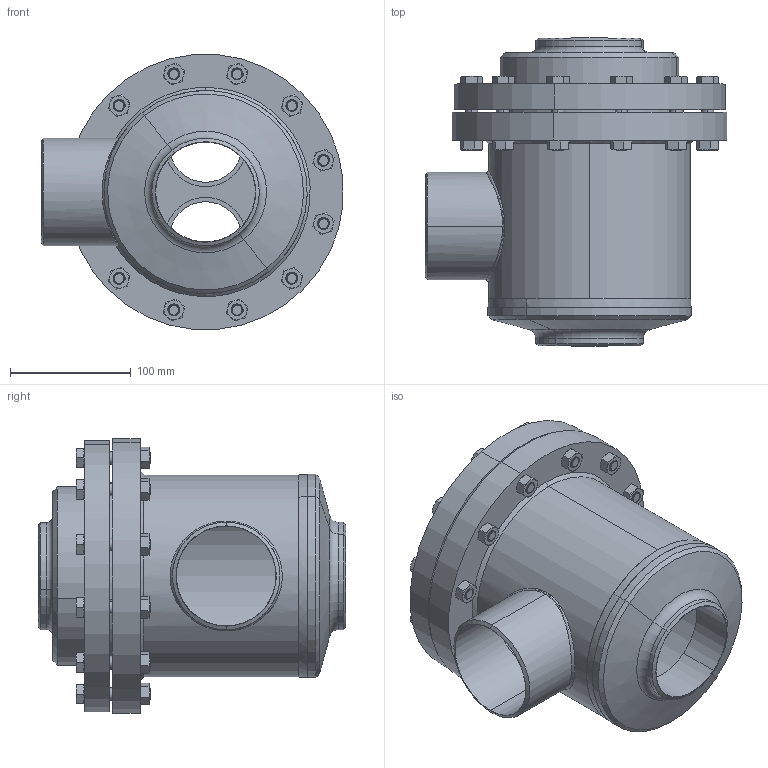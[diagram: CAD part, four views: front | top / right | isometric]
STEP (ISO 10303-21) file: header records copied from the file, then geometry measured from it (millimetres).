
FILE_DESCRIPTION (( 'STEP AP214' ), '1' );
FILE_NAME ('TR47000B18-DN80_R1_PS25.STEP', '2005-08-10T11:04:31', ( 'Herr Grams' ), ( 'AWP GmbH' ), 'SwSTEP 2.0', 'SolidWorks 2002296', '' );
FILE_SCHEMA (( 'AUTOMOTIVE_DESIGN' ));
Length unit declared in the file: millimetre
Products named in the file (16): TR47000B18-DN80_R1_PS25; Deckel47000B18_DN80_PS25_R1_Standard; Andruckplatte47050-17-DN65-80_Standard; Geh-kpl47000B18-DN80_PS25_R1_Standard; RohrstutzA47000E18-DN80_PS40_R1_Standard; Boden47000E_DN65-100_PS40_DN 80; Geh47000E18_DN80_PS40_R1_Standard; Kehlnaht18-3_Standard; Kopfring47000E17_DN65-80_PS40_Standard; bead18-1_Standard; bead18-4_Standard; Kehlnaht18-2_Standard; Führungsring47050-17-DN65-80_Standard; loser Flansch47000E17_DN65-80_PS40_Standard; Sechskantschraube-DIN933-M10x55_M10x55; Sechskantmutter-DIN934_M10
Assembly tree (37 placements, depth 3):
  TR47000B18-DN80_R1_PS25
    Geh-kpl47000B18-DN80_PS25_R1_Standard
      Kopfring47000E17_DN65-80_PS40_Standard
      Boden47000E_DN65-100_PS40_DN 80
      Kehlnaht18-3_Standard
      bead18-1_Standard
      Kehlnaht18-2_Standard
      Geh47000E18_DN80_PS40_R1_Standard
      RohrstutzA47000E18-DN80_PS40_R1_Standard
      bead18-4_Standard
    Sechskantschraube-DIN933-M10x55_M10x55  x12
    Sechskantmutter-DIN934_M10  x12
    loser Flansch47000E17_DN65-80_PS40_Standard
    Andruckplatte47050-17-DN65-80_Standard
    Deckel47000B18_DN80_PS25_R1_Standard
    Führungsring47050-17-DN65-80_Standard
Bounding box: 249.57 x 254.5 x 227.13 mm (x, y, z)
Volume: 2319627.5 mm3; surface area: 640726.9 mm2
Topology: 36 solids, 36 shells, 1220 faces, 3052 edges, 1926 vertices
Faces by surface type: cylinder 550, cone 382, plane 248, bspline 32, torus 8
Entity records: 28238 total; most frequent: CARTESIAN_POINT 20739, DIRECTION 1449, ORIENTED_EDGE 1352, EDGE_CURVE 676, AXIS2_PLACEMENT_3D 622, VERTEX_POINT 430, EDGE_LOOP 376, CIRCLE 306
